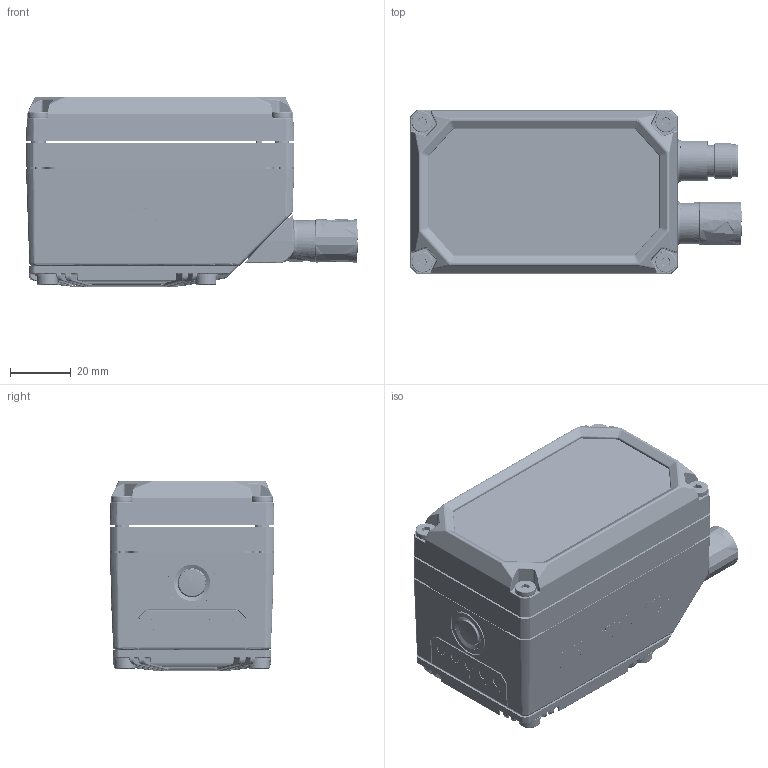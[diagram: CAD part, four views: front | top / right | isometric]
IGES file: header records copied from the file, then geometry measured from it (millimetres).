
Global section: file name: C:\Users\gesposito\Desktop\file temporanei\DSD\MC000481_00_1-M320 OFF. SIS _specification_ MC000481-00-dwg4_.igs; native system: NX V12.0; preprocessor: SIEMENS PLM Software NX 12.0; date: 20201124.132309; units: millimetre
Bounding box: 108.95 x 54 x 62.5 mm (x, y, z)
Surface area: 75191.3 mm2 (no closed solid volume)
Topology: 0 solids, 0 shells, 3510 faces, 20516 edges, 20026 vertices
Faces by surface type: bspline 3510
